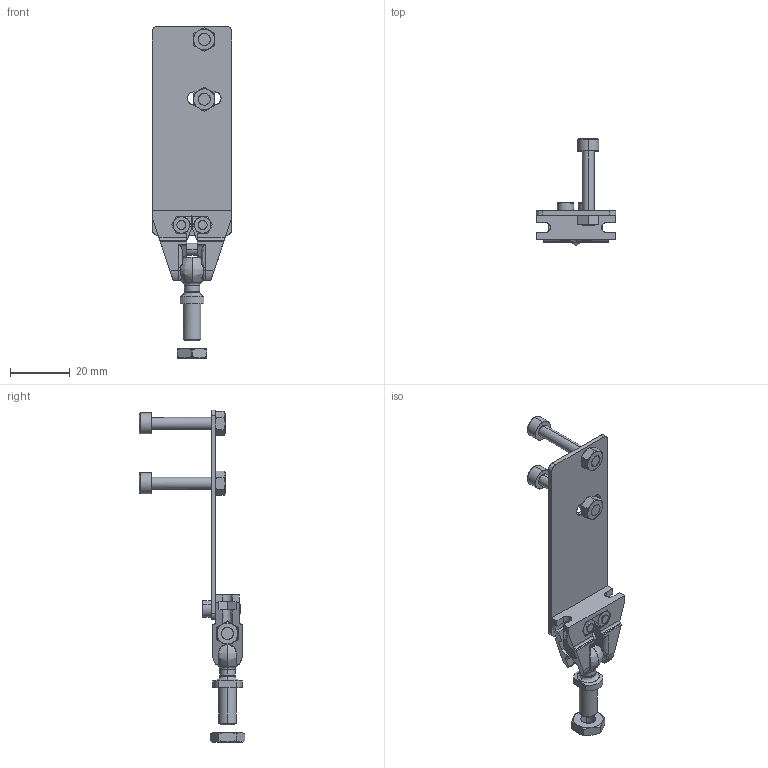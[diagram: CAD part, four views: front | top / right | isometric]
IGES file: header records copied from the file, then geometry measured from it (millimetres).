
Start section: Comment
Global section: file name: Sensofix Serie 14 WD.igs; native system:  By UGS Corp.; preprocessor: XPlus GENERIC/IGES 3.0; author: Author; organization: Title; date: 20101025.122138; units: millimetre
Bounding box: 26.6 x 35.27 x 111 mm (x, y, z)
Surface area: 9298.2 mm2 (no closed solid volume)
Topology: 0 solids, 0 shells, 431 faces, 2146 edges, 2146 vertices
Faces by surface type: bspline 431
